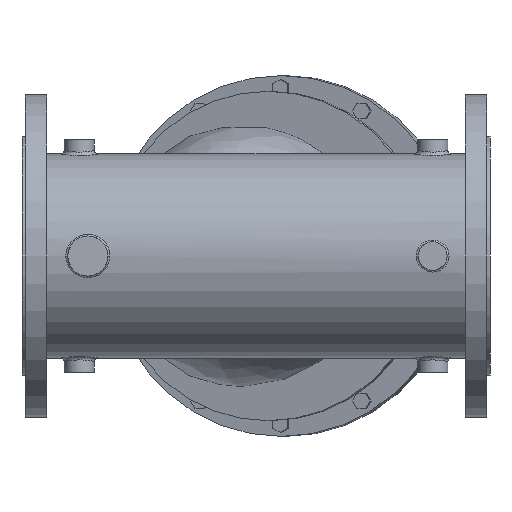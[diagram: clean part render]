
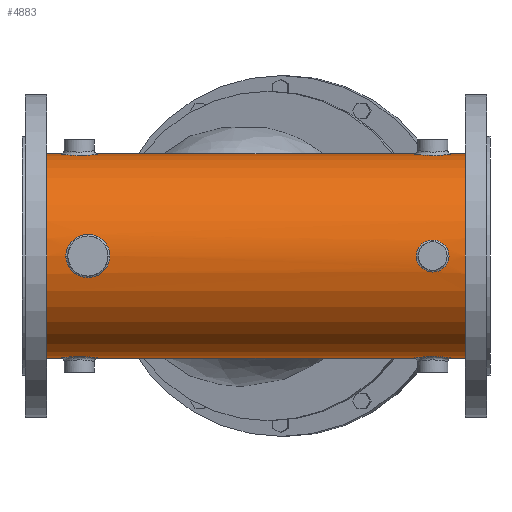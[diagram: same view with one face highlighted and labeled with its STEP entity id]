
A CAD part, front view. The second image highlights one B-rep face of the part: STEP entity #4883.
In plain terms, the highlighted cylindrical face has radius 90.487 mm (diameter 180.975 mm), a full revolution.
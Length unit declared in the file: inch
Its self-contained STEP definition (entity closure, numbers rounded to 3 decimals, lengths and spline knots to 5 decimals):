
#349=FACE_OUTER_BOUND('',#608,.T.);
#608=EDGE_LOOP('',(#3246,#3247,#3248,#3249,#3250,#3251,#3252,#3253,#3254,
#3255,#3256,#3257,#3258,#3259,#3260));
#947=B_SPLINE_CURVE_WITH_KNOTS('',3,(#6811,#6812,#6813,#6814,#6815,#6816,
#6817,#6818,#6819,#6820,#6821,#6822),.UNSPECIFIED.,.F.,.F.,(4,1,1,1,1,1,
1,1,1,4),(-8.05958,-7.93165,-7.67579,-6.65235,
-6.14063,-5.1172,-4.60548,-3.58204,
-3.07032,-2.68653),.UNSPECIFIED.);
#948=B_SPLINE_CURVE_WITH_KNOTS('',3,(#6826,#6827,#6828,#6829,#6830,#6831,
#6832,#6833,#6834,#6835,#6836,#6837),.UNSPECIFIED.,.F.,.F.,(4,1,1,1,1,1,
1,1,1,4),(-5.74885,-5.47511,-5.1101,-4.38009,
-4.01508,-3.65007,-3.28506,-2.55505,
-2.19004,-1.91628),.UNSPECIFIED.);
#949=B_SPLINE_CURVE_WITH_KNOTS('',3,(#6844,#6845,#6846,#6847,#6848,#6849,
#6850),.UNSPECIFIED.,.F.,.F.,(4,1,1,1,4),(-7.66515,-7.11764,
-6.57013,-5.84012,-5.74885),.UNSPECIFIED.);
#950=B_SPLINE_CURVE_WITH_KNOTS('',3,(#6851,#6852,#6853,#6854,#6855,#6856,
#6857),.UNSPECIFIED.,.F.,.F.,(4,1,1,1,4),(-1.91628,-1.64253,
-1.09502,-0.54751,0.),.UNSPECIFIED.);
#990=CIRCLE('',#5164,3.5625);
#991=CIRCLE('',#5165,3.5625);
#992=CIRCLE('',#5166,3.5625);
#993=CIRCLE('',#5167,3.5625);
#1101=LINE('',#6805,#1612);
#1102=LINE('',#6807,#1613);
#1103=LINE('',#6824,#1614);
#1104=LINE('',#6839,#1615);
#1612=VECTOR('',#5542,3.5625);
#1613=VECTOR('',#5543,3.5625);
#1614=VECTOR('',#5548,3.5625);
#1615=VECTOR('',#5549,3.5625);
#2123=VERTEX_POINT('',#6803);
#2124=VERTEX_POINT('',#6804);
#2125=VERTEX_POINT('',#6806);
#2126=VERTEX_POINT('',#6808);
#2127=VERTEX_POINT('',#6823);
#2128=VERTEX_POINT('',#6825);
#2129=VERTEX_POINT('',#6838);
#2130=VERTEX_POINT('',#6840);
#2131=VERTEX_POINT('',#6843);
#2578=EDGE_CURVE('',#2123,#2124,#1101,.T.);
#2579=EDGE_CURVE('',#2123,#2125,#1102,.T.);
#2580=EDGE_CURVE('',#2125,#2126,#990,.T.);
#2581=EDGE_CURVE('',#2126,#2125,#991,.T.);
#2582=EDGE_CURVE('',#2124,#2123,#947,.T.);
#2583=EDGE_CURVE('',#2127,#2124,#1103,.T.);
#2584=EDGE_CURVE('',#2128,#2127,#948,.T.);
#2585=EDGE_CURVE('',#2129,#2128,#1104,.T.);
#2586=EDGE_CURVE('',#2130,#2129,#992,.T.);
#2587=EDGE_CURVE('',#2129,#2130,#993,.T.);
#2588=EDGE_CURVE('',#2131,#2128,#949,.T.);
#2589=EDGE_CURVE('',#2127,#2131,#950,.T.);
#3246=ORIENTED_EDGE('',*,*,#2578,.F.);
#3247=ORIENTED_EDGE('',*,*,#2579,.T.);
#3248=ORIENTED_EDGE('',*,*,#2580,.T.);
#3249=ORIENTED_EDGE('',*,*,#2581,.T.);
#3250=ORIENTED_EDGE('',*,*,#2579,.F.);
#3251=ORIENTED_EDGE('',*,*,#2582,.F.);
#3252=ORIENTED_EDGE('',*,*,#2583,.F.);
#3253=ORIENTED_EDGE('',*,*,#2584,.F.);
#3254=ORIENTED_EDGE('',*,*,#2585,.F.);
#3255=ORIENTED_EDGE('',*,*,#2586,.F.);
#3256=ORIENTED_EDGE('',*,*,#2587,.F.);
#3257=ORIENTED_EDGE('',*,*,#2585,.T.);
#3258=ORIENTED_EDGE('',*,*,#2588,.F.);
#3259=ORIENTED_EDGE('',*,*,#2589,.F.);
#3260=ORIENTED_EDGE('',*,*,#2583,.T.);
#4582=CYLINDRICAL_SURFACE('',#5163,3.5625);
#4883=ADVANCED_FACE('',(#349),#4582,.T.);
#5163=AXIS2_PLACEMENT_3D('',#6802,#5540,#5541);
#5164=AXIS2_PLACEMENT_3D('',#6809,#5544,#5545);
#5165=AXIS2_PLACEMENT_3D('',#6810,#5546,#5547);
#5166=AXIS2_PLACEMENT_3D('',#6841,#5550,#5551);
#5167=AXIS2_PLACEMENT_3D('',#6842,#5552,#5553);
#5540=DIRECTION('center_axis',(1.,0.,0.));
#5541=DIRECTION('ref_axis',(0.,1.,0.));
#5542=DIRECTION('',(1.,0.,0.));
#5543=DIRECTION('',(-1.,0.,0.));
#5544=DIRECTION('center_axis',(1.,0.,0.));
#5545=DIRECTION('ref_axis',(0.,0.,-1.));
#5546=DIRECTION('center_axis',(1.,0.,0.));
#5547=DIRECTION('ref_axis',(0.,0.,-1.));
#5548=DIRECTION('',(-1.,0.,0.));
#5549=DIRECTION('',(-1.,0.,0.));
#5550=DIRECTION('center_axis',(1.,0.,0.));
#5551=DIRECTION('ref_axis',(0.,0.,-1.));
#5552=DIRECTION('center_axis',(1.,0.,0.));
#5553=DIRECTION('ref_axis',(0.,0.,-1.));
#6802=CARTESIAN_POINT('Origin',(0.,0.,0.));
#6803=CARTESIAN_POINT('',(-6.64,-3.5625,0.));
#6804=CARTESIAN_POINT('',(-5.1,-3.5625,0.));
#6805=CARTESIAN_POINT('',(0.,-3.5625,0.));
#6806=CARTESIAN_POINT('',(-7.30386,-3.5625,0.));
#6807=CARTESIAN_POINT('',(0.,-3.5625,0.));
#6808=CARTESIAN_POINT('',(-7.30386,3.5625,0.));
#6809=CARTESIAN_POINT('Origin',(-7.30386,0.,0.));
#6810=CARTESIAN_POINT('Origin',(-7.30386,0.,0.));
#6811=CARTESIAN_POINT('Ctrl Pts',(-5.09992,-3.56255,-0.00002));
#6812=CARTESIAN_POINT('Ctrl Pts',(-5.09994,-3.56254,0.01888));
#6813=CARTESIAN_POINT('Ctrl Pts',(-5.10216,-3.56204,0.07558));
#6814=CARTESIAN_POINT('Ctrl Pts',(-5.13348,-3.55564,0.28175));
#6815=CARTESIAN_POINT('Ctrl Pts',(-5.27431,-3.52725,0.51886));
#6816=CARTESIAN_POINT('Ctrl Pts',(-5.59425,-3.48712,0.73357));
#6817=CARTESIAN_POINT('Ctrl Pts',(-5.9123,-3.47567,0.78104));
#6818=CARTESIAN_POINT('Ctrl Pts',(-6.28448,-3.50051,0.66776));
#6819=CARTESIAN_POINT('Ctrl Pts',(-6.51815,-3.5378,0.45494));
#6820=CARTESIAN_POINT('Ctrl Pts',(-6.6249,-3.55944,0.18879));
#6821=CARTESIAN_POINT('Ctrl Pts',(-6.63988,-3.56245,0.05659));
#6822=CARTESIAN_POINT('Ctrl Pts',(-6.63988,-3.56245,-0.00006));
#6823=CARTESIAN_POINT('',(5.6,-3.5625,0.));
#6824=CARTESIAN_POINT('',(0.,-3.5625,0.));
#6825=CARTESIAN_POINT('',(6.74,-3.5625,0.));
#6826=CARTESIAN_POINT('Ctrl Pts',(6.74008,-3.56255,-0.00007));
#6827=CARTESIAN_POINT('Ctrl Pts',(6.74004,-3.56254,0.0418));
#6828=CARTESIAN_POINT('Ctrl Pts',(6.72864,-3.56072,0.13959));
#6829=CARTESIAN_POINT('Ctrl Pts',(6.65019,-3.54909,0.33663));
#6830=CARTESIAN_POINT('Ctrl Pts',(6.47646,-3.52848,0.49466));
#6831=CARTESIAN_POINT('Ctrl Pts',(6.25631,-3.51805,0.56109));
#6832=CARTESIAN_POINT('Ctrl Pts',(6.0837,-3.51805,0.56106));
#6833=CARTESIAN_POINT('Ctrl Pts',(5.86343,-3.52851,0.49472));
#6834=CARTESIAN_POINT('Ctrl Pts',(5.69003,-3.54903,0.33654));
#6835=CARTESIAN_POINT('Ctrl Pts',(5.61122,-3.5608,0.13957));
#6836=CARTESIAN_POINT('Ctrl Pts',(5.60013,-3.56245,0.04184));
#6837=CARTESIAN_POINT('Ctrl Pts',(5.60011,-3.56246,-0.00004));
#6838=CARTESIAN_POINT('',(7.30386,-3.5625,0.));
#6839=CARTESIAN_POINT('',(0.,-3.5625,0.));
#6840=CARTESIAN_POINT('',(7.30386,3.5625,0.));
#6841=CARTESIAN_POINT('Origin',(7.30386,0.,0.));
#6842=CARTESIAN_POINT('Origin',(7.30386,0.,0.));
#6843=CARTESIAN_POINT('',(6.17,-3.51837,-0.55902));
#6844=CARTESIAN_POINT('Ctrl Pts',(6.17,-3.51837,-0.55902));
#6845=CARTESIAN_POINT('Ctrl Pts',(6.2554,-3.51837,-0.55902));
#6846=CARTESIAN_POINT('Ctrl Pts',(6.4259,-3.52466,-0.52058));
#6847=CARTESIAN_POINT('Ctrl Pts',(6.65375,-3.54869,-0.34292));
#6848=CARTESIAN_POINT('Ctrl Pts',(6.73538,-3.56184,-0.13963));
#6849=CARTESIAN_POINT('Ctrl Pts',(6.7401,-3.56256,-0.01403));
#6850=CARTESIAN_POINT('Ctrl Pts',(6.74008,-3.56255,-0.00007));
#6851=CARTESIAN_POINT('Ctrl Pts',(5.60011,-3.56246,-0.00004));
#6852=CARTESIAN_POINT('Ctrl Pts',(5.6001,-3.56246,-0.04191));
#6853=CARTESIAN_POINT('Ctrl Pts',(5.61427,-3.56034,-0.16751));
#6854=CARTESIAN_POINT('Ctrl Pts',(5.7093,-3.54614,-0.36059));
#6855=CARTESIAN_POINT('Ctrl Pts',(5.9139,-3.52477,-0.52065));
#6856=CARTESIAN_POINT('Ctrl Pts',(6.0846,-3.51837,-0.55902));
#6857=CARTESIAN_POINT('Ctrl Pts',(6.17,-3.51837,-0.55902));
